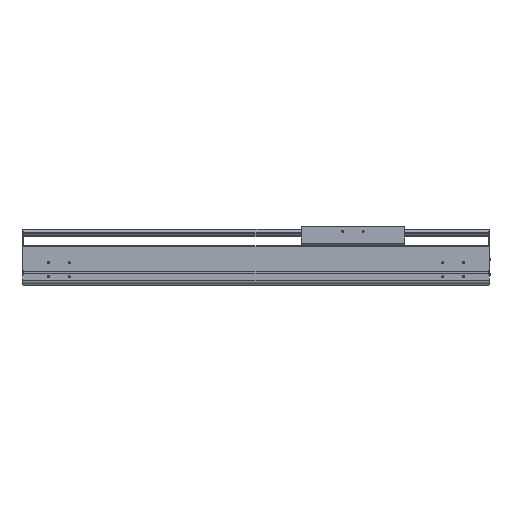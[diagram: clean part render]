
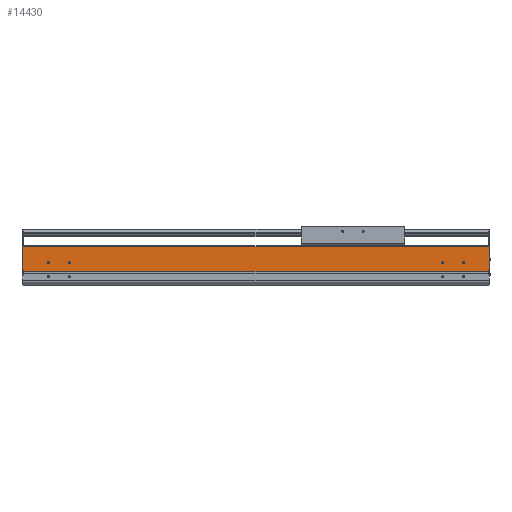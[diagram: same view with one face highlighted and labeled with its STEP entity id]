
A CAD part, top view. The second image highlights one B-rep face of the part: STEP entity #14430.
In plain terms, the highlighted planar face has unit normal (0, 0, 1).
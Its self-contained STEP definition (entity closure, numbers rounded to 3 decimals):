
#1844=DIRECTION('',(0.,-1.,0.));
#1845=VECTOR('',#1844,2.55);
#1846=CARTESIAN_POINT('',(0.,34.65,107.));
#1847=LINE('',#1846,#1845);
#2327=DIRECTION('',(1.,0.,0.));
#2328=VECTOR('',#2327,2.);
#2329=CARTESIAN_POINT('',(-1121.,34.65,107.));
#2330=LINE('',#2329,#2328);
#2331=CARTESIAN_POINT('',(-59.5,54.,107.));
#2332=DIRECTION('',(0.,0.,-1.));
#2333=DIRECTION('',(1.,0.,0.));
#2334=AXIS2_PLACEMENT_3D('',#2331,#2332,#2333);
#2336=CARTESIAN_POINT('',(-59.5,54.,107.));
#2337=DIRECTION('',(0.,0.,-1.));
#2338=DIRECTION('',(-1.,0.,0.));
#2339=AXIS2_PLACEMENT_3D('',#2336,#2337,#2338);
#2341=CARTESIAN_POINT('',(-109.5,54.,107.));
#2342=DIRECTION('',(0.,0.,-1.));
#2343=DIRECTION('',(1.,0.,0.));
#2344=AXIS2_PLACEMENT_3D('',#2341,#2342,#2343);
#2346=CARTESIAN_POINT('',(-109.5,54.,107.));
#2347=DIRECTION('',(0.,0.,-1.));
#2348=DIRECTION('',(-1.,0.,0.));
#2349=AXIS2_PLACEMENT_3D('',#2346,#2347,#2348);
#2351=CARTESIAN_POINT('',(-1059.5,54.,107.));
#2352=DIRECTION('',(0.,0.,-1.));
#2353=DIRECTION('',(1.,0.,0.));
#2354=AXIS2_PLACEMENT_3D('',#2351,#2352,#2353);
#2356=CARTESIAN_POINT('',(-1059.5,54.,107.));
#2357=DIRECTION('',(0.,0.,-1.));
#2358=DIRECTION('',(-1.,0.,0.));
#2359=AXIS2_PLACEMENT_3D('',#2356,#2357,#2358);
#2361=CARTESIAN_POINT('',(-1009.5,54.,107.));
#2362=DIRECTION('',(0.,0.,-1.));
#2363=DIRECTION('',(1.,0.,0.));
#2364=AXIS2_PLACEMENT_3D('',#2361,#2362,#2363);
#2366=CARTESIAN_POINT('',(-1009.5,54.,107.));
#2367=DIRECTION('',(0.,0.,-1.));
#2368=DIRECTION('',(-1.,0.,0.));
#2369=AXIS2_PLACEMENT_3D('',#2366,#2367,#2368);
#2371=DIRECTION('',(0.,-1.,0.));
#2372=VECTOR('',#2371,2.55);
#2373=CARTESIAN_POINT('',(-1119.,34.65,107.));
#2374=LINE('',#2373,#2372);
#2375=DIRECTION('',(0.,-1.,0.));
#2376=VECTOR('',#2375,58.85);
#2377=CARTESIAN_POINT('',(-1121.,93.5,107.));
#2378=LINE('',#2377,#2376);
#2379=DIRECTION('',(0.,1.,0.));
#2380=VECTOR('',#2379,58.85);
#2381=CARTESIAN_POINT('',(2.,34.65,107.));
#2382=LINE('',#2381,#2380);
#2383=DIRECTION('',(1.,0.,0.));
#2384=VECTOR('',#2383,1119.);
#2385=CARTESIAN_POINT('',(-1119.,32.1,107.));
#2386=LINE('',#2385,#2384);
#2491=DIRECTION('',(-1.,0.,0.));
#2492=VECTOR('',#2491,1123.);
#2493=CARTESIAN_POINT('',(2.,93.5,107.));
#2494=LINE('',#2493,#2492);
#7767=DIRECTION('',(1.,0.,0.));
#7768=VECTOR('',#7767,2.);
#7769=CARTESIAN_POINT('',(0.,34.65,107.));
#7770=LINE('',#7769,#7768);
#9093=CARTESIAN_POINT('',(-1121.,34.65,107.));
#9094=VERTEX_POINT('',#9093);
#9095=CARTESIAN_POINT('',(-1121.,93.5,107.));
#9096=VERTEX_POINT('',#9095);
#9325=CARTESIAN_POINT('',(-1119.,32.1,107.));
#9326=VERTEX_POINT('',#9325);
#9601=CARTESIAN_POINT('',(0.,32.1,107.));
#9602=VERTEX_POINT('',#9601);
#9603=CARTESIAN_POINT('',(-57.,54.,107.));
#9604=CARTESIAN_POINT('',(-62.,54.,107.));
#9605=VERTEX_POINT('',#9603);
#9606=VERTEX_POINT('',#9604);
#9607=CARTESIAN_POINT('',(-107.,54.,107.));
#9608=CARTESIAN_POINT('',(-112.,54.,107.));
#9609=VERTEX_POINT('',#9607);
#9610=VERTEX_POINT('',#9608);
#9611=CARTESIAN_POINT('',(-1057.,54.,107.));
#9612=CARTESIAN_POINT('',(-1062.,54.,107.));
#9613=VERTEX_POINT('',#9611);
#9614=VERTEX_POINT('',#9612);
#9615=CARTESIAN_POINT('',(-1007.,54.,107.));
#9616=CARTESIAN_POINT('',(-1012.,54.,107.));
#9617=VERTEX_POINT('',#9615);
#9618=VERTEX_POINT('',#9616);
#10254=CARTESIAN_POINT('',(2.,34.65,107.));
#10255=VERTEX_POINT('',#10254);
#10256=CARTESIAN_POINT('',(2.,93.5,107.));
#10257=VERTEX_POINT('',#10256);
#10708=CARTESIAN_POINT('',(0.,34.65,107.));
#10709=VERTEX_POINT('',#10708);
#10788=CARTESIAN_POINT('',(-1119.,34.65,107.));
#10789=VERTEX_POINT('',#10788);
#14388=CARTESIAN_POINT('',(-559.5,62.8,107.));
#14389=DIRECTION('',(0.,0.,1.));
#14390=DIRECTION('',(0.,-1.,0.));
#14391=AXIS2_PLACEMENT_3D('',#14388,#14389,#14390);
#14392=PLANE('',#14391);
#14393=ORIENTED_EDGE('',*,*,#11874,.F.);
#14394=ORIENTED_EDGE('',*,*,#14383,.F.);
#14395=ORIENTED_EDGE('',*,*,#12503,.F.);
#14397=ORIENTED_EDGE('',*,*,#14396,.F.);
#14398=ORIENTED_EDGE('',*,*,#11611,.F.);
#14400=ORIENTED_EDGE('',*,*,#14399,.F.);
#14401=ORIENTED_EDGE('',*,*,#13991,.T.);
#14403=ORIENTED_EDGE('',*,*,#14402,.F.);
#14404=EDGE_LOOP('',(#14393,#14394,#14395,#14397,#14398,#14400,#14401,#14403));
#14405=FACE_OUTER_BOUND('',#14404,.F.);
#14407=ORIENTED_EDGE('',*,*,#14406,.F.);
#14409=ORIENTED_EDGE('',*,*,#14408,.F.);
#14410=EDGE_LOOP('',(#14407,#14409));
#14411=FACE_BOUND('',#14410,.F.);
#14413=ORIENTED_EDGE('',*,*,#14412,.F.);
#14415=ORIENTED_EDGE('',*,*,#14414,.F.);
#14416=EDGE_LOOP('',(#14413,#14415));
#14417=FACE_BOUND('',#14416,.F.);
#14419=ORIENTED_EDGE('',*,*,#14418,.F.);
#14421=ORIENTED_EDGE('',*,*,#14420,.F.);
#14422=EDGE_LOOP('',(#14419,#14421));
#14423=FACE_BOUND('',#14422,.F.);
#14425=ORIENTED_EDGE('',*,*,#14424,.F.);
#14427=ORIENTED_EDGE('',*,*,#14426,.F.);
#14428=EDGE_LOOP('',(#14425,#14427));
#14429=FACE_BOUND('',#14428,.F.);
#14430=ADVANCED_FACE('',(#14405,#14411,#14417,#14423,#14429),#14392,.T.);
#2335=CIRCLE('',#2334,2.5);
#2340=CIRCLE('',#2339,2.5);
#2345=CIRCLE('',#2344,2.5);
#2350=CIRCLE('',#2349,2.5);
#2355=CIRCLE('',#2354,2.5);
#2360=CIRCLE('',#2359,2.5);
#2365=CIRCLE('',#2364,2.5);
#2370=CIRCLE('',#2369,2.5);
#11611=EDGE_CURVE('',#10255,#10257,#2382,.T.);
#11874=EDGE_CURVE('',#10789,#9326,#2374,.T.);
#12503=EDGE_CURVE('',#9096,#9094,#2378,.T.);
#13991=EDGE_CURVE('',#10709,#9602,#1847,.T.);
#14383=EDGE_CURVE('',#9094,#10789,#2330,.T.);
#14396=EDGE_CURVE('',#10257,#9096,#2494,.T.);
#14399=EDGE_CURVE('',#10709,#10255,#7770,.T.);
#14402=EDGE_CURVE('',#9326,#9602,#2386,.T.);
#14406=EDGE_CURVE('',#9609,#9610,#2345,.T.);
#14408=EDGE_CURVE('',#9610,#9609,#2350,.T.);
#14412=EDGE_CURVE('',#9613,#9614,#2355,.T.);
#14414=EDGE_CURVE('',#9614,#9613,#2360,.T.);
#14418=EDGE_CURVE('',#9617,#9618,#2365,.T.);
#14420=EDGE_CURVE('',#9618,#9617,#2370,.T.);
#14424=EDGE_CURVE('',#9605,#9606,#2335,.T.);
#14426=EDGE_CURVE('',#9606,#9605,#2340,.T.);
